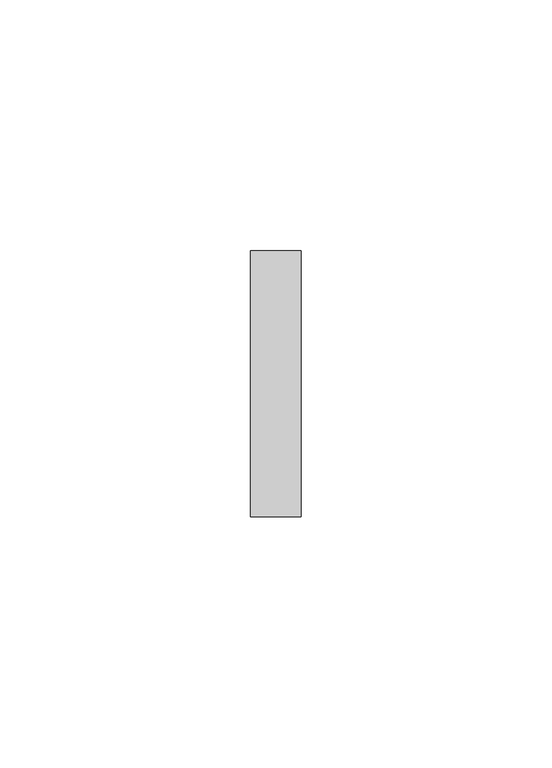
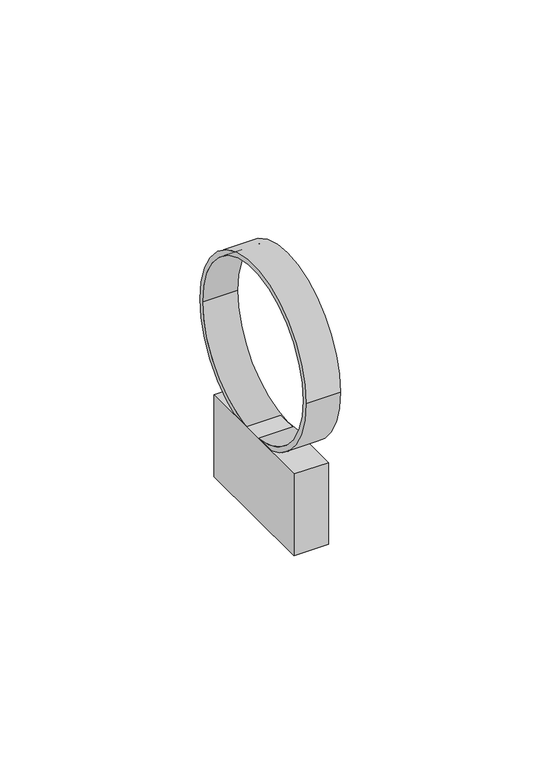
"""IFC4 building model written with IfcOpenShell, lengths in millimetres: cable carrier fitting geometry, Хомутный держатель со стяжкой CFF2 32-63 мм IEK : Хомутный держатель со стяжкой CFF2 32-63 мм IEK."""

from ifc_helpers import new_model, si_unit, point, frame, origin, origin_2d, place, context, project, spatial, polyline, circle_curve, trimmed, segment, composite_curve, outline, extrude, source, transform, mapped, element, save


def cable_carrier_fitting_958c0bbb(model_context):
    return source(origin(), model_context, "Body", "SweptSolid", [
        extrude(outline(polyline([(5.0, 19.4195258), (5.0, -20.5240345), (-5.0, -20.5240345), (-5.0, 19.4195258), (5.0, 19.4195258)])), frame((0.0, 0.0, -50.0), z_axis=(0.0, 0.0, 1.0), x_axis=(1.0, 0.0, 0.0)), (0.0, 0.0, 1.0), 25.0),
        extrude(outline(composite_curve([segment(trimmed(circle_curve(origin_2d(), 26.5), [point((-26.5, 0.0))], [point((26.5, 0.0))], False, "CARTESIAN"), True, "CONTINUOUS"), segment(trimmed(circle_curve(origin_2d(), 26.5), [point((26.5, 0.0))], [point((-26.5, 0.0))], False, "CARTESIAN"), True, "CONTINUOUS")], self_intersect=False), holes=[composite_curve([segment(trimmed(circle_curve(origin_2d(), 25.0), [point((-25.0, 0.0))], [point((25.0, 0.0))], True, "CARTESIAN"), True, "CONTINUOUS"), segment(trimmed(circle_curve(origin_2d(), 25.0), [point((25.0, 0.0))], [point((-25.0, 0.0))], True, "CARTESIAN"), True, "CONTINUOUS")], self_intersect=False)]), frame((-5.0, 0.0, 0.0), z_axis=(1.0, 0.0, 0.0), x_axis=(0.0, 1.0, 0.0)), (0.0, 0.0, 1.0), 10.0),
    ])


if __name__ == "__main__":
    model = new_model("IFC4")
    model_context = context("Model", 3, world=origin())
    ifc_project = project(units=[si_unit("LENGTHUNIT", "METRE", prefix="MILLI")], contexts=[model_context])
    site = spatial("IfcSite", under=ifc_project)
    building = spatial("IfcBuilding", under=site)
    placement = place(None, origin())
    cable_carrier_fitting_shape = cable_carrier_fitting_958c0bbb(model_context)
    element("IfcCableCarrierFitting", 1, ObjectType="Хомутный держатель со стяжкой CFF2 32-63 мм IEK : Хомутный держатель со стяжкой CFF2 32-63 мм IEK", at=placement, inside=building, context=model_context, shape_type="MappedRepresentation", body=[
        mapped(cable_carrier_fitting_shape, transform((0.0, 0.0, 0.0), x_axis=(1.0, 0.0, 0.0), y_axis=(0.0, 1.0, 0.0), z_axis=(0.0, 0.0, 1.0))),
    ])
    save(model, "model.ifc")
